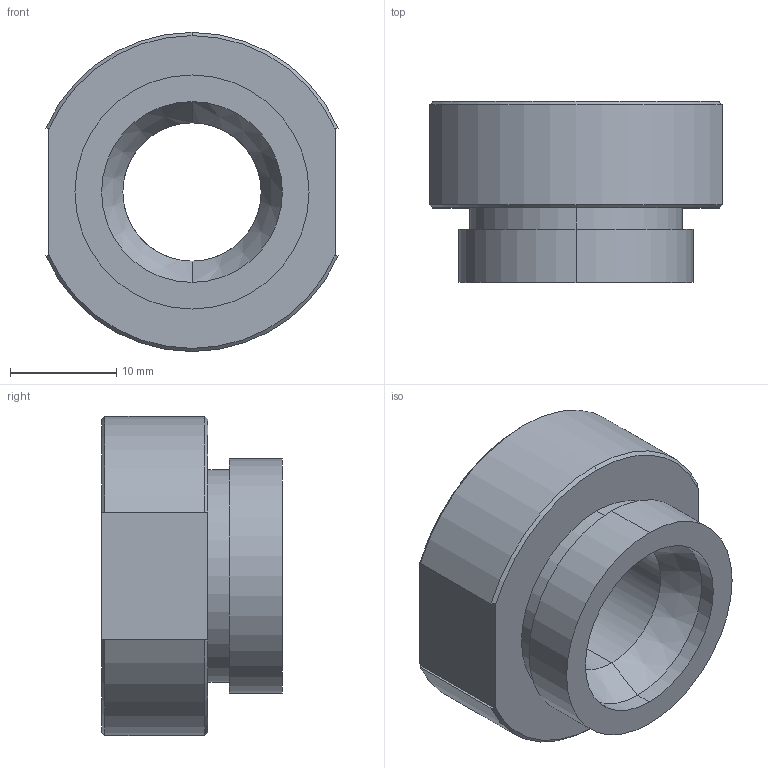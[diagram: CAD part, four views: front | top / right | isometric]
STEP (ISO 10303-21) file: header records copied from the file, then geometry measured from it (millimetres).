
FILE_DESCRIPTION (( 'STEP AP203' ), '1' );
FILE_NAME ('SW-PN-C12.STEP', '2022-04-06T02:02:38', ( '' ), ( '' ), 'SwSTEP 2.0', 'SolidWorks 2015', '' );
FILE_SCHEMA (( 'CONFIG_CONTROL_DESIGN' ));
Length unit declared in the file: millimetre
Products named in the file (2): SW-PN-C12
Bounding box: 27.5 x 17 x 30 mm (x, y, z)
Volume: 6770.2 mm3; surface area: 3278.9 mm2
Topology: 1 solids, 1 shells, 31 faces, 74 edges, 47 vertices
Faces by surface type: cylinder 11, cone 10, plane 10
Entity records: 1106 total; most frequent: CARTESIAN_POINT 236, DIRECTION 151, ORIENTED_EDGE 148, EDGE_CURVE 74, AXIS2_PLACEMENT_3D 62, VERTEX_POINT 47, EDGE_LOOP 35, FACE_OUTER_BOUND 31
